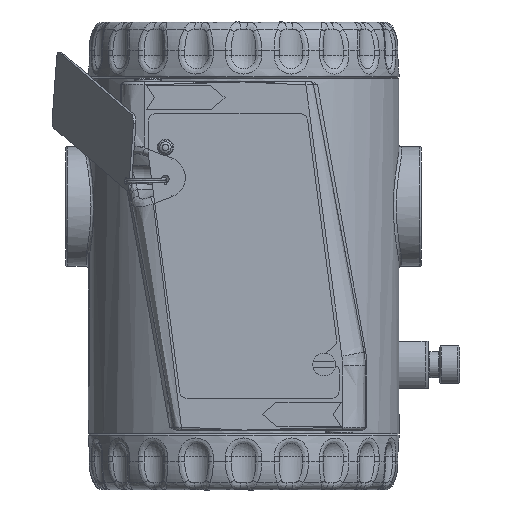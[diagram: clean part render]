
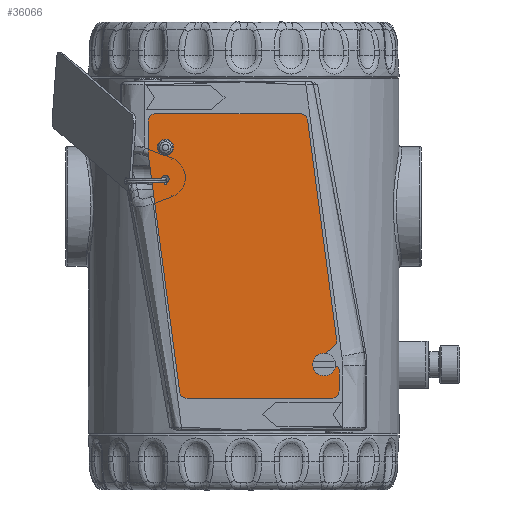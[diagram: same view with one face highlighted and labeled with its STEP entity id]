
A CAD part, left-side view. The second image highlights one B-rep face of the part: STEP entity #36066.
In plain terms, the highlighted planar face has unit normal (-1, 0, 0) as drawn and (0, 0, 1) by its records, which use the part's own axes.
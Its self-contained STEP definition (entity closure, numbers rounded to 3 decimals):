
#1111=PLANE('',#40242);
#1692=FACE_BOUND('',#9514,.T.);
#1693=FACE_BOUND('',#9515,.T.);
#2998=LINE('',#77309,#4621);
#3002=LINE('',#77321,#4625);
#3006=LINE('',#77333,#4629);
#3010=LINE('',#77345,#4633);
#3014=LINE('',#77357,#4637);
#3017=LINE('',#77363,#4640);
#3021=LINE('',#77375,#4644);
#3025=LINE('',#77386,#4648);
#4621=VECTOR('',#48772,10.);
#4625=VECTOR('',#48784,10.);
#4629=VECTOR('',#48796,10.);
#4633=VECTOR('',#48808,10.);
#4637=VECTOR('',#48820,10.);
#4640=VECTOR('',#48825,10.);
#4644=VECTOR('',#48837,10.);
#4648=VECTOR('',#48849,10.);
#7204=FACE_OUTER_BOUND('',#9513,.T.);
#9513=EDGE_LOOP('',(#30504,#30505,#30506,#30507,#30508,#30509,#30510,#30511,
#30512,#30513,#30514,#30515,#30516,#30517,#30518));
#9514=EDGE_LOOP('',(#30519));
#9515=EDGE_LOOP('',(#30520));
#11911=CIRCLE('',#40208,1.35);
#11913=CIRCLE('',#40211,1.);
#11914=CIRCLE('',#40213,2.);
#11916=CIRCLE('',#40217,2.);
#11918=CIRCLE('',#40221,1.);
#11920=CIRCLE('',#40225,2.);
#11922=CIRCLE('',#40229,2.);
#11924=CIRCLE('',#40234,2.);
#11926=CIRCLE('',#40238,2.);
#16294=VERTEX_POINT('',#77289);
#16296=VERTEX_POINT('',#77295);
#16297=VERTEX_POINT('',#77299);
#16298=VERTEX_POINT('',#77300);
#16301=VERTEX_POINT('',#77308);
#16303=VERTEX_POINT('',#77314);
#16305=VERTEX_POINT('',#77320);
#16307=VERTEX_POINT('',#77326);
#16309=VERTEX_POINT('',#77332);
#16311=VERTEX_POINT('',#77338);
#16313=VERTEX_POINT('',#77344);
#16315=VERTEX_POINT('',#77350);
#16317=VERTEX_POINT('',#77356);
#16319=VERTEX_POINT('',#77362);
#16321=VERTEX_POINT('',#77368);
#16323=VERTEX_POINT('',#77374);
#16325=VERTEX_POINT('',#77380);
#21162=EDGE_CURVE('',#16294,#16294,#11911,.T.);
#21165=EDGE_CURVE('',#16296,#16296,#11913,.T.);
#21166=EDGE_CURVE('',#16297,#16298,#11914,.T.);
#21170=EDGE_CURVE('',#16298,#16301,#2998,.T.);
#21173=EDGE_CURVE('',#16301,#16303,#11916,.T.);
#21176=EDGE_CURVE('',#16303,#16305,#3002,.T.);
#21179=EDGE_CURVE('',#16305,#16307,#11918,.T.);
#21182=EDGE_CURVE('',#16307,#16309,#3006,.T.);
#21185=EDGE_CURVE('',#16309,#16311,#11920,.T.);
#21188=EDGE_CURVE('',#16311,#16313,#3010,.T.);
#21191=EDGE_CURVE('',#16313,#16315,#11922,.T.);
#21194=EDGE_CURVE('',#16315,#16317,#3014,.T.);
#21197=EDGE_CURVE('',#16317,#16319,#3017,.T.);
#21200=EDGE_CURVE('',#16319,#16321,#11924,.T.);
#21203=EDGE_CURVE('',#16321,#16323,#3021,.T.);
#21206=EDGE_CURVE('',#16323,#16325,#11926,.T.);
#21209=EDGE_CURVE('',#16325,#16297,#3025,.T.);
#30504=ORIENTED_EDGE('',*,*,#21166,.F.);
#30505=ORIENTED_EDGE('',*,*,#21209,.F.);
#30506=ORIENTED_EDGE('',*,*,#21206,.F.);
#30507=ORIENTED_EDGE('',*,*,#21203,.F.);
#30508=ORIENTED_EDGE('',*,*,#21200,.F.);
#30509=ORIENTED_EDGE('',*,*,#21197,.F.);
#30510=ORIENTED_EDGE('',*,*,#21194,.F.);
#30511=ORIENTED_EDGE('',*,*,#21191,.F.);
#30512=ORIENTED_EDGE('',*,*,#21188,.F.);
#30513=ORIENTED_EDGE('',*,*,#21185,.F.);
#30514=ORIENTED_EDGE('',*,*,#21182,.F.);
#30515=ORIENTED_EDGE('',*,*,#21179,.F.);
#30516=ORIENTED_EDGE('',*,*,#21176,.F.);
#30517=ORIENTED_EDGE('',*,*,#21173,.F.);
#30518=ORIENTED_EDGE('',*,*,#21170,.F.);
#30519=ORIENTED_EDGE('',*,*,#21162,.T.);
#30520=ORIENTED_EDGE('',*,*,#21165,.T.);
#36066=ADVANCED_FACE('',(#7204,#1692,#1693),#1111,.T.);
#40208=AXIS2_PLACEMENT_3D('',#77291,#48753,#48754);
#40211=AXIS2_PLACEMENT_3D('',#77297,#48760,#48761);
#40213=AXIS2_PLACEMENT_3D('',#77301,#48764,#48765);
#40217=AXIS2_PLACEMENT_3D('',#77315,#48777,#48778);
#40221=AXIS2_PLACEMENT_3D('',#77327,#48789,#48790);
#40225=AXIS2_PLACEMENT_3D('',#77339,#48801,#48802);
#40229=AXIS2_PLACEMENT_3D('',#77351,#48813,#48814);
#40234=AXIS2_PLACEMENT_3D('',#77369,#48830,#48831);
#40238=AXIS2_PLACEMENT_3D('',#77381,#48842,#48843);
#40242=AXIS2_PLACEMENT_3D('',#77389,#48853,#48854);
#48753=DIRECTION('center_axis',(0.,0.,-1.));
#48754=DIRECTION('ref_axis',(-1.,0.,0.));
#48760=DIRECTION('center_axis',(0.,0.,-1.));
#48761=DIRECTION('ref_axis',(-1.,0.,0.));
#48764=DIRECTION('center_axis',(0.,0.,-1.));
#48765=DIRECTION('ref_axis',(0.766,0.643,0.));
#48772=DIRECTION('',(0.643,-0.766,0.));
#48777=DIRECTION('center_axis',(0.,0.,1.));
#48778=DIRECTION('ref_axis',(0.766,0.643,0.));
#48784=DIRECTION('',(-0.643,0.766,0.));
#48789=DIRECTION('center_axis',(0.,0.,-1.));
#48790=DIRECTION('ref_axis',(0.,1.,0.));
#48796=DIRECTION('',(1.,0.,0.));
#48801=DIRECTION('center_axis',(0.,0.,-1.));
#48802=DIRECTION('ref_axis',(1.,0.,0.));
#48808=DIRECTION('',(0.,-1.,0.));
#48813=DIRECTION('center_axis',(0.,0.,-1.));
#48814=DIRECTION('ref_axis',(0.131,-0.991,0.));
#48820=DIRECTION('',(-0.991,-0.131,0.));
#48825=DIRECTION('',(-1.,0.,0.));
#48830=DIRECTION('center_axis',(0.,0.,-1.));
#48831=DIRECTION('ref_axis',(-1.,0.,0.));
#48837=DIRECTION('',(0.,1.,0.));
#48842=DIRECTION('center_axis',(0.,0.,-1.));
#48843=DIRECTION('ref_axis',(-0.131,0.991,0.));
#48849=DIRECTION('',(0.991,0.131,0.));
#48853=DIRECTION('center_axis',(0.,0.,1.));
#48854=DIRECTION('ref_axis',(1.,0.,0.));
#77289=CARTESIAN_POINT('',(10.35,4.599,0.7));
#77291=CARTESIAN_POINT('Origin',(9.,4.599,0.7));
#77295=CARTESIAN_POINT('',(18.4,4.599,0.7));
#77297=CARTESIAN_POINT('Origin',(17.4,4.599,0.7));
#77299=CARTESIAN_POINT('',(60.389,50.327,0.7));
#77300=CARTESIAN_POINT('',(62.182,49.63,0.7));
#77301=CARTESIAN_POINT('Origin',(60.65,48.344,0.7));
#77308=CARTESIAN_POINT('',(65.468,45.714,0.7));
#77309=CARTESIAN_POINT('',(65.468,45.714,0.7));
#77314=CARTESIAN_POINT('',(68.532,48.286,0.7));
#77315=CARTESIAN_POINT('Origin',(67.,47.,0.7));
#77320=CARTESIAN_POINT('',(67.633,49.357,0.7));
#77321=CARTESIAN_POINT('',(67.633,49.357,0.7));
#77326=CARTESIAN_POINT('',(68.399,51.,0.7));
#77327=CARTESIAN_POINT('Origin',(68.399,50.,0.7));
#77332=CARTESIAN_POINT('',(74.,51.,0.7));
#77333=CARTESIAN_POINT('',(74.,51.,0.7));
#77338=CARTESIAN_POINT('',(76.,49.,0.7));
#77339=CARTESIAN_POINT('Origin',(74.,49.,0.7));
#77344=CARTESIAN_POINT('',(76.,10.377,0.7));
#77345=CARTESIAN_POINT('',(76.,10.377,0.7));
#77350=CARTESIAN_POINT('',(74.261,8.394,0.7));
#77351=CARTESIAN_POINT('Origin',(74.,10.377,0.7));
#77356=CARTESIAN_POINT('',(10.5,0.,0.7));
#77357=CARTESIAN_POINT('',(10.5,0.,0.7));
#77362=CARTESIAN_POINT('',(2.,0.,0.7));
#77363=CARTESIAN_POINT('',(2.,0.,0.7));
#77368=CARTESIAN_POINT('',(0.,2.,0.7));
#77369=CARTESIAN_POINT('Origin',(2.,2.,0.7));
#77374=CARTESIAN_POINT('',(0.,40.623,0.7));
#77375=CARTESIAN_POINT('',(0.,40.623,0.7));
#77380=CARTESIAN_POINT('',(1.739,42.606,0.7));
#77381=CARTESIAN_POINT('Origin',(2.,40.623,0.7));
#77386=CARTESIAN_POINT('',(60.389,50.327,0.7));
#77389=CARTESIAN_POINT('Origin',(39.077,26.228,0.7));
